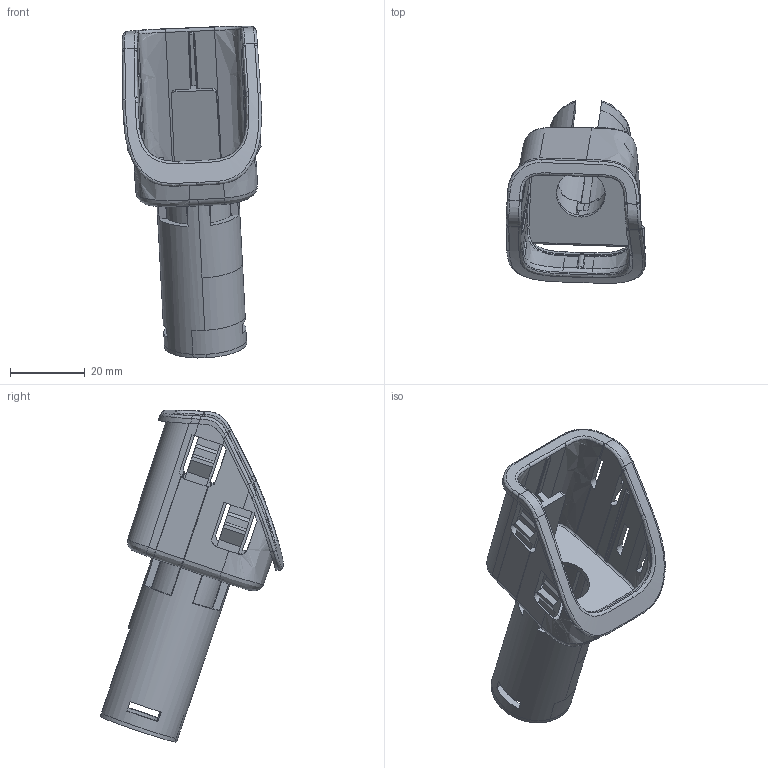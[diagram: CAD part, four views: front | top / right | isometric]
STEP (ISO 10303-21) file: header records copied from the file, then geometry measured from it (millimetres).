
FILE_DESCRIPTION(('CATIA V5 STEP Exchange'),'2;1');
FILE_NAME('F:\11-X3000\2.0平台提升\2.0外观提升\0807\0110\SHT0011970.stp','2021-01-12T05:53:56+00:00',('none'),('none'),'CATIA Version 5 Release 20 GA (IN-10)','CATIA V5 STEP AP203 Edition 2','none');
FILE_SCHEMA(('AP203_CONFIGURATION_CONTROLLED_3D_DESIGN_OF_MECHANICAL_PARTS_AND_ASSEMBLIES_MIM_LF { 1 0 10303 403 2 1 2}'));
Length unit declared in the file: millimetre
Products named in the file (1): 20210112
Bounding box: 37.15 x 48.79 x 88.57 mm (x, y, z)
Volume: 14773.2 mm3; surface area: 16121.3 mm2
Topology: 1 solids, 1 shells, 408 faces, 1189 edges, 765 vertices
Faces by surface type: bspline 192, plane 124, cylinder 82, extrusion 10
Entity records: 30428 total; most frequent: CARTESIAN_POINT 21884, ORIENTED_EDGE 2376, EDGE_CURVE 1188, B_SPLINE_CURVE_WITH_KNOTS 795, DIRECTION 765, VERTEX_POINT 763, EDGE_LOOP 417, ADVANCED_FACE 408
